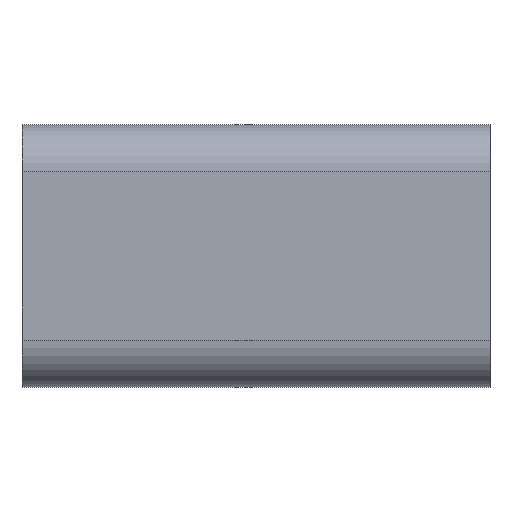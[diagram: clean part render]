
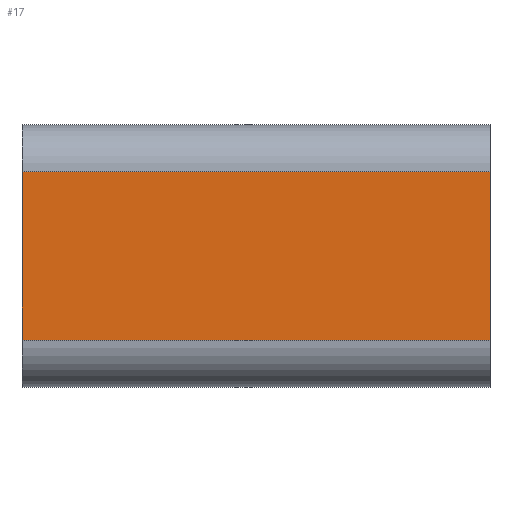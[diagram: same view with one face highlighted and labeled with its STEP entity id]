
A CAD part, top view. The second image highlights one B-rep face of the part: STEP entity #17.
In plain terms, the highlighted planar face has unit normal (0, 0, 1).
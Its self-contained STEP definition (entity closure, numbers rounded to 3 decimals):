
#17 = ADVANCED_FACE('',(#18),#32,.F.);
#18 = FACE_BOUND('',#19,.F.);
#19 = EDGE_LOOP('',(#20,#55,#83,#111));
#20 = ORIENTED_EDGE('',*,*,#21,.F.);
#21 = EDGE_CURVE('',#22,#24,#26,.T.);
#22 = VERTEX_POINT('',#23);
#23 = CARTESIAN_POINT('',(54.9,-36.639,-0.24));
#24 = VERTEX_POINT('',#25);
#25 = CARTESIAN_POINT('',(54.9,-27.639,-0.24));
#26 = SURFACE_CURVE('',#27,(#31,#43),.PCURVE_S1.);
#27 = LINE('',#28,#29);
#28 = CARTESIAN_POINT('',(54.9,-39.139,-0.24));
#29 = VECTOR('',#30,1.);
#30 = DIRECTION('',(0.,1.,0.));
#31 = PCURVE('',#32,#37);
#32 = PLANE('',#33);
#33 = AXIS2_PLACEMENT_3D('',#34,#35,#36);
#34 = CARTESIAN_POINT('',(29.9,-39.139,-0.24));
#35 = DIRECTION('',(0.,0.,-1.));
#36 = DIRECTION('',(1.,0.,0.));
#37 = DEFINITIONAL_REPRESENTATION('',(#38),#42);
#38 = LINE('',#39,#40);
#39 = CARTESIAN_POINT('',(25.,0.));
#40 = VECTOR('',#41,1.);
#41 = DIRECTION('',(0.,-1.));
#42 = ( GEOMETRIC_REPRESENTATION_CONTEXT(2) 
PARAMETRIC_REPRESENTATION_CONTEXT() REPRESENTATION_CONTEXT('2D SPACE',''
  ) );
#43 = PCURVE('',#44,#49);
#44 = PLANE('',#45);
#45 = AXIS2_PLACEMENT_3D('',#46,#47,#48);
#46 = CARTESIAN_POINT('',(54.9,-39.139,-0.24));
#47 = DIRECTION('',(1.,0.,0.));
#48 = DIRECTION('',(0.,0.,-1.));
#49 = DEFINITIONAL_REPRESENTATION('',(#50),#54);
#50 = LINE('',#51,#52);
#51 = CARTESIAN_POINT('',(0.,0.));
#52 = VECTOR('',#53,1.);
#53 = DIRECTION('',(0.,1.));
#54 = ( GEOMETRIC_REPRESENTATION_CONTEXT(2) 
PARAMETRIC_REPRESENTATION_CONTEXT() REPRESENTATION_CONTEXT('2D SPACE',''
  ) );
#55 = ORIENTED_EDGE('',*,*,#56,.F.);
#56 = EDGE_CURVE('',#57,#22,#59,.T.);
#57 = VERTEX_POINT('',#58);
#58 = CARTESIAN_POINT('',(29.9,-36.639,-0.24));
#59 = SURFACE_CURVE('',#60,(#64,#71),.PCURVE_S1.);
#60 = LINE('',#61,#62);
#61 = CARTESIAN_POINT('',(29.9,-36.639,-0.24));
#62 = VECTOR('',#63,1.);
#63 = DIRECTION('',(1.,0.,0.));
#64 = PCURVE('',#32,#65);
#65 = DEFINITIONAL_REPRESENTATION('',(#66),#70);
#66 = LINE('',#67,#68);
#67 = CARTESIAN_POINT('',(0.,-2.5));
#68 = VECTOR('',#69,1.);
#69 = DIRECTION('',(1.,0.));
#70 = ( GEOMETRIC_REPRESENTATION_CONTEXT(2) 
PARAMETRIC_REPRESENTATION_CONTEXT() REPRESENTATION_CONTEXT('2D SPACE',''
  ) );
#71 = PCURVE('',#72,#77);
#72 = CYLINDRICAL_SURFACE('',#73,2.5);
#73 = AXIS2_PLACEMENT_3D('',#74,#75,#76);
#74 = CARTESIAN_POINT('',(29.9,-36.639,-2.74));
#75 = DIRECTION('',(1.,0.,0.));
#76 = DIRECTION('',(0.,0.,1.));
#77 = DEFINITIONAL_REPRESENTATION('',(#78),#82);
#78 = LINE('',#79,#80);
#79 = CARTESIAN_POINT('',(0.,0.));
#80 = VECTOR('',#81,1.);
#81 = DIRECTION('',(0.,1.));
#82 = ( GEOMETRIC_REPRESENTATION_CONTEXT(2) 
PARAMETRIC_REPRESENTATION_CONTEXT() REPRESENTATION_CONTEXT('2D SPACE',''
  ) );
#83 = ORIENTED_EDGE('',*,*,#84,.T.);
#84 = EDGE_CURVE('',#57,#85,#87,.T.);
#85 = VERTEX_POINT('',#86);
#86 = CARTESIAN_POINT('',(29.9,-27.639,-0.24));
#87 = SURFACE_CURVE('',#88,(#92,#99),.PCURVE_S1.);
#88 = LINE('',#89,#90);
#89 = CARTESIAN_POINT('',(29.9,-39.139,-0.24));
#90 = VECTOR('',#91,1.);
#91 = DIRECTION('',(0.,1.,0.));
#92 = PCURVE('',#32,#93);
#93 = DEFINITIONAL_REPRESENTATION('',(#94),#98);
#94 = LINE('',#95,#96);
#95 = CARTESIAN_POINT('',(0.,0.));
#96 = VECTOR('',#97,1.);
#97 = DIRECTION('',(0.,-1.));
#98 = ( GEOMETRIC_REPRESENTATION_CONTEXT(2) 
PARAMETRIC_REPRESENTATION_CONTEXT() REPRESENTATION_CONTEXT('2D SPACE',''
  ) );
#99 = PCURVE('',#100,#105);
#100 = PLANE('',#101);
#101 = AXIS2_PLACEMENT_3D('',#102,#103,#104);
#102 = CARTESIAN_POINT('',(29.9,-39.139,-0.24));
#103 = DIRECTION('',(1.,0.,0.));
#104 = DIRECTION('',(0.,0.,-1.));
#105 = DEFINITIONAL_REPRESENTATION('',(#106),#110);
#106 = LINE('',#107,#108);
#107 = CARTESIAN_POINT('',(0.,0.));
#108 = VECTOR('',#109,1.);
#109 = DIRECTION('',(0.,1.));
#110 = ( GEOMETRIC_REPRESENTATION_CONTEXT(2) 
PARAMETRIC_REPRESENTATION_CONTEXT() REPRESENTATION_CONTEXT('2D SPACE',''
  ) );
#111 = ORIENTED_EDGE('',*,*,#112,.T.);
#112 = EDGE_CURVE('',#85,#24,#113,.T.);
#113 = SURFACE_CURVE('',#114,(#118,#125),.PCURVE_S1.);
#114 = LINE('',#115,#116);
#115 = CARTESIAN_POINT('',(29.9,-27.639,-0.24));
#116 = VECTOR('',#117,1.);
#117 = DIRECTION('',(1.,0.,0.));
#118 = PCURVE('',#32,#119);
#119 = DEFINITIONAL_REPRESENTATION('',(#120),#124);
#120 = LINE('',#121,#122);
#121 = CARTESIAN_POINT('',(0.,-11.5));
#122 = VECTOR('',#123,1.);
#123 = DIRECTION('',(1.,0.));
#124 = ( GEOMETRIC_REPRESENTATION_CONTEXT(2) 
PARAMETRIC_REPRESENTATION_CONTEXT() REPRESENTATION_CONTEXT('2D SPACE',''
  ) );
#125 = PCURVE('',#126,#131);
#126 = CYLINDRICAL_SURFACE('',#127,2.5);
#127 = AXIS2_PLACEMENT_3D('',#128,#129,#130);
#128 = CARTESIAN_POINT('',(29.9,-27.639,-2.74));
#129 = DIRECTION('',(1.,0.,0.));
#130 = DIRECTION('',(0.,0.,1.));
#131 = DEFINITIONAL_REPRESENTATION('',(#132),#136);
#132 = LINE('',#133,#134);
#133 = CARTESIAN_POINT('',(-0.,0.));
#134 = VECTOR('',#135,1.);
#135 = DIRECTION('',(-0.,1.));
#136 = ( GEOMETRIC_REPRESENTATION_CONTEXT(2) 
PARAMETRIC_REPRESENTATION_CONTEXT() REPRESENTATION_CONTEXT('2D SPACE',''
  ) );
